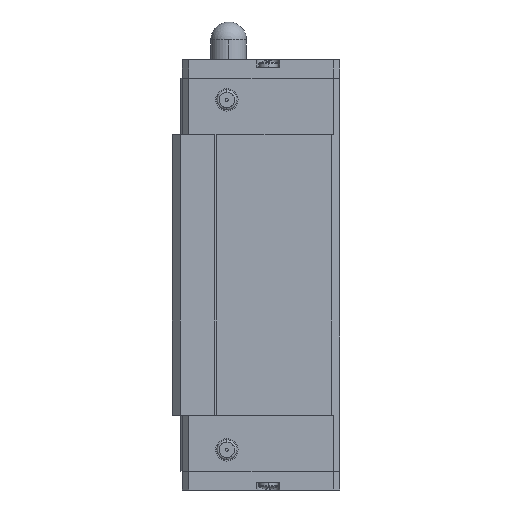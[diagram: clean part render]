
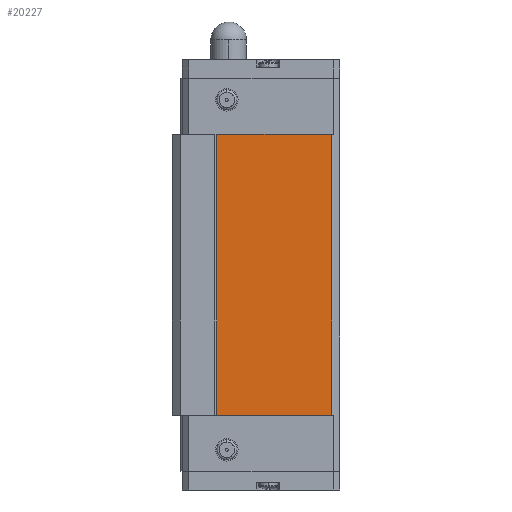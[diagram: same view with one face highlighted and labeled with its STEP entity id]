
A CAD part, left-side view. The second image highlights one B-rep face of the part: STEP entity #20227.
In plain terms, the highlighted planar face has unit normal (-1, 0, 0).
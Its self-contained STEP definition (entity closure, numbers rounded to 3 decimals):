
#2340 = CARTESIAN_POINT ( 'NONE',  ( -16.737, -7.479, 19.75 ) ) ;
#4049 = LINE ( 'NONE', #31166, #5738 ) ;
#4094 = CARTESIAN_POINT ( 'NONE',  ( -16.737, 17.337, 19.75 ) ) ;
#4978 = VECTOR ( 'NONE', #7580, 1000. ) ;
#5738 = VECTOR ( 'NONE', #13997, 1000. ) ;
#6083 = CARTESIAN_POINT ( 'NONE',  ( -16.737, 17.337, 19.75 ) ) ;
#6377 = VERTEX_POINT ( 'NONE', #6083 ) ;
#7139 = FACE_OUTER_BOUND ( 'NONE', #9919, .T. ) ;
#7340 = DIRECTION ( 'NONE',  ( 0., 1., 0. ) ) ;
#7580 = DIRECTION ( 'NONE',  ( 0., 1., 0. ) ) ;
#8327 = VERTEX_POINT ( 'NONE', #42044 ) ;
#9154 = ORIENTED_EDGE ( 'NONE', *, *, #11491, .F. ) ;
#9919 = EDGE_LOOP ( 'NONE', ( #9154, #18945, #23682, #27718 ) ) ;
#11038 = VECTOR ( 'NONE', #22033, 1000. ) ;
#11491 = EDGE_CURVE ( 'NONE', #8327, #27765, #4049, .T. ) ;
#12695 = LINE ( 'NONE', #42071, #11038 ) ;
#13360 = AXIS2_PLACEMENT_3D ( 'NONE', #4094, #37110, #7340 ) ;
#13997 = DIRECTION ( 'NONE',  ( 0., 0., -1. ) ) ;
#15540 = DIRECTION ( 'NONE',  ( 0., 1., 0. ) ) ;
#17529 = CARTESIAN_POINT ( 'NONE',  ( -16.737, -7.479, -19.75 ) ) ;
#18945 = ORIENTED_EDGE ( 'NONE', *, *, #26160, .T. ) ;
#20227 = ADVANCED_FACE ( 'NONE', ( #7139 ), #30981, .F. ) ;
#20767 = CARTESIAN_POINT ( 'NONE',  ( -16.737, 17.337, -19.75 ) ) ;
#22033 = DIRECTION ( 'NONE',  ( 0., 0., 1. ) ) ;
#22062 = LINE ( 'NONE', #2340, #37639 ) ;
#22803 = CARTESIAN_POINT ( 'NONE',  ( -16.737, 1.18, -19.75 ) ) ;
#22875 = EDGE_CURVE ( 'NONE', #27765, #32962, #30152, .T. ) ;
#23682 = ORIENTED_EDGE ( 'NONE', *, *, #39107, .F. ) ;
#26160 = EDGE_CURVE ( 'NONE', #8327, #6377, #22062, .T. ) ;
#27718 = ORIENTED_EDGE ( 'NONE', *, *, #22875, .F. ) ;
#27765 = VERTEX_POINT ( 'NONE', #22803 ) ;
#30152 = LINE ( 'NONE', #17529, #4978 ) ;
#30981 = PLANE ( 'NONE',  #13360 ) ;
#31166 = CARTESIAN_POINT ( 'NONE',  ( -16.737, 1.18, 19.75 ) ) ;
#32962 = VERTEX_POINT ( 'NONE', #20767 ) ;
#37110 = DIRECTION ( 'NONE',  ( 1., 0., 0. ) ) ;
#37639 = VECTOR ( 'NONE', #15540, 1000. ) ;
#39107 = EDGE_CURVE ( 'NONE', #32962, #6377, #12695, .T. ) ;
#42044 = CARTESIAN_POINT ( 'NONE',  ( -16.737, 1.18, 19.75 ) ) ;
#42071 = CARTESIAN_POINT ( 'NONE',  ( -16.737, 17.337, 19.75 ) ) ;
